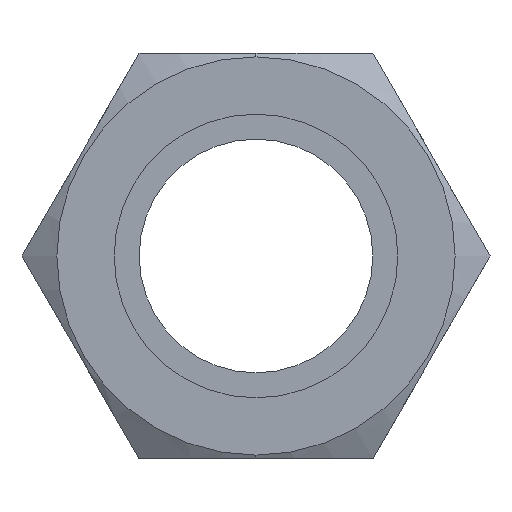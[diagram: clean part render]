
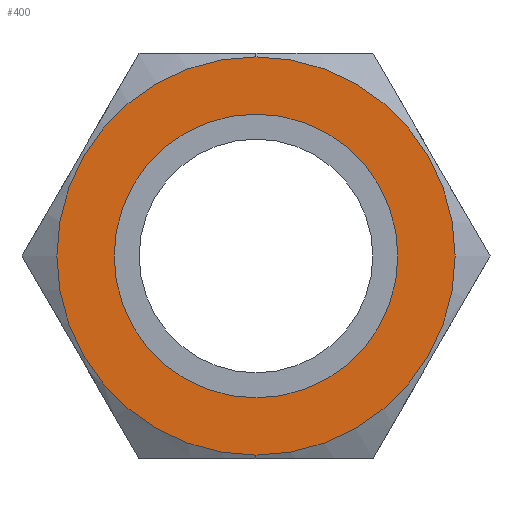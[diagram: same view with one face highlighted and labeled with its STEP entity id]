
A CAD part, left-side view. The second image highlights one B-rep face of the part: STEP entity #400.
In plain terms, the highlighted planar face has unit normal (-1, 0, 0).
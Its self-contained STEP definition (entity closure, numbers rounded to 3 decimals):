
#29 = EDGE_CURVE ( 'NONE', #49, #30, #2205, .T. ) ;
#30 = VERTEX_POINT ( 'NONE', #2200 ) ;
#49 = VERTEX_POINT ( 'NONE', #2099 ) ;
#114 = VERTEX_POINT ( 'NONE', #2030 ) ;
#116 = EDGE_CURVE ( 'NONE', #117, #114, #2176, .T. ) ;
#117 = VERTEX_POINT ( 'NONE', #2171 ) ;
#400 = ADVANCED_FACE ( 'NONE', ( #1538, #1537 ), #1536, .T. ) ;
#401 = EDGE_LOOP ( 'NONE', ( #402, #404 ) ) ;
#402 = ORIENTED_EDGE ( 'NONE', *, *, #403, .F. ) ;
#403 = EDGE_CURVE ( 'NONE', #30, #49, #1534, .T. ) ;
#404 = ORIENTED_EDGE ( 'NONE', *, *, #29, .F. ) ;
#405 = EDGE_LOOP ( 'NONE', ( #406, #407 ) ) ;
#406 = ORIENTED_EDGE ( 'NONE', *, *, #116, .T. ) ;
#407 = ORIENTED_EDGE ( 'NONE', *, *, #408, .T. ) ;
#408 = EDGE_CURVE ( 'NONE', #114, #117, #1526, .T. ) ;
#1483 = DIRECTION ( 'NONE',  ( 0., 0., 1. ) ) ;
#1523 = DIRECTION ( 'NONE',  ( -1., 0., 0. ) ) ;
#1524 = CARTESIAN_POINT ( 'NONE',  ( -22.1, 0., 0. ) ) ;
#1525 = AXIS2_PLACEMENT_3D ( 'NONE', #1524, #1523, #1483 ) ;
#1526 = CIRCLE ( 'NONE', #1525, 15.6 ) ;
#1527 = DIRECTION ( 'NONE',  ( 0., 0., 1. ) ) ;
#1528 = DIRECTION ( 'NONE',  ( -1., 0., 0. ) ) ;
#1529 = CARTESIAN_POINT ( 'NONE',  ( -22.1, 0., 0. ) ) ;
#1530 = AXIS2_PLACEMENT_3D ( 'NONE', #1529, #1528, #1527 ) ;
#1531 = DIRECTION ( 'NONE',  ( 0., 0., 1. ) ) ;
#1532 = DIRECTION ( 'NONE',  ( -1., 0., 0. ) ) ;
#1533 = AXIS2_PLACEMENT_3D ( 'NONE', #1535, #1532, #1531 ) ;
#1534 = CIRCLE ( 'NONE', #1530, 11.115 ) ;
#1535 = CARTESIAN_POINT ( 'NONE',  ( -22.1, 18.331, 0. ) ) ;
#1536 = PLANE ( 'NONE',  #1533 ) ;
#1537 = FACE_OUTER_BOUND ( 'NONE', #405, .T. ) ;
#1538 = FACE_BOUND ( 'NONE', #401, .T. ) ;
#2030 = CARTESIAN_POINT ( 'NONE',  ( -22.1, 0., -15.6 ) ) ;
#2099 = CARTESIAN_POINT ( 'NONE',  ( -22.1, 0., -11.115 ) ) ;
#2171 = CARTESIAN_POINT ( 'NONE',  ( -22.1, 0., 15.6 ) ) ;
#2172 = DIRECTION ( 'NONE',  ( 0., 0., 1. ) ) ;
#2173 = DIRECTION ( 'NONE',  ( -1., 0., 0. ) ) ;
#2174 = CARTESIAN_POINT ( 'NONE',  ( -22.1, 0., 0. ) ) ;
#2175 = AXIS2_PLACEMENT_3D ( 'NONE', #2174, #2173, #2172 ) ;
#2176 = CIRCLE ( 'NONE', #2175, 15.6 ) ;
#2200 = CARTESIAN_POINT ( 'NONE',  ( -22.1, 0., 11.115 ) ) ;
#2201 = DIRECTION ( 'NONE',  ( 0., 0., 1. ) ) ;
#2202 = DIRECTION ( 'NONE',  ( -1., 0., 0. ) ) ;
#2203 = CARTESIAN_POINT ( 'NONE',  ( -22.1, 0., 0. ) ) ;
#2204 = AXIS2_PLACEMENT_3D ( 'NONE', #2203, #2202, #2201 ) ;
#2205 = CIRCLE ( 'NONE', #2204, 11.115 ) ;
